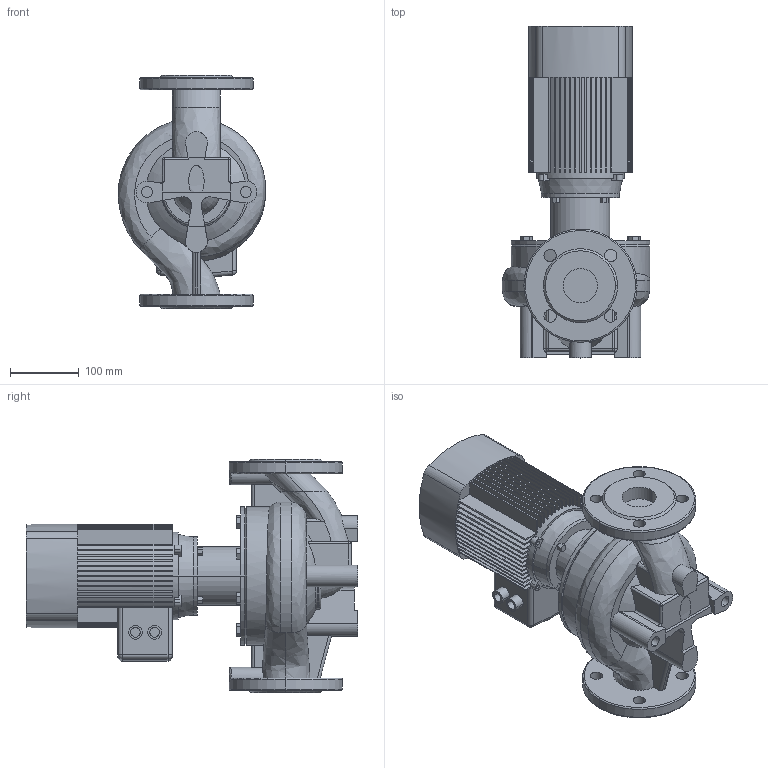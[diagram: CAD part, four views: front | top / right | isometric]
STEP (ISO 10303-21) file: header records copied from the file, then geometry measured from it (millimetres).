
FILE_DESCRIPTION (( 'STEP AP203' ), '1' );
FILE_NAME ('TD50-12G_2.STEP', '2022-05-02T14:54:40', ( '' ), ( '' ), 'SwSTEP 2.0', 'SolidWorks 2019', '' );
FILE_SCHEMA (( 'CONFIG_CONTROL_DESIGN' ));
Length unit declared in the file: millimetre
Products named in the file (4): ED_B14_YE2-80M2-2 (1.1); TD50-12G_2; Pr_ch 50_TD50-12G_2; Fon_50_TD50-12G_2
Assembly tree (3 placements, depth 2):
  TD50-12G_2
    Pr_ch 50_TD50-12G_2
    Fon_50_TD50-12G_2
    ED_B14_YE2-80M2-2 (1.1)
Bounding box: 215.07 x 484 x 340 mm (x, y, z)
Volume: 9811216.5 mm3; surface area: 787935.8 mm2
Topology: 3 solids, 3 shells, 643 faces, 1750 edges, 1148 vertices
Faces by surface type: plane 423, cylinder 155, bspline 25, torus 23, cone 11, sphere 6
Entity records: 26016 total; most frequent: CARTESIAN_POINT 9191, ORIENTED_EDGE 3496, DIRECTION 3402, EDGE_CURVE 1748, AXIS2_PLACEMENT_3D 1194, VERTEX_POINT 1148, VECTOR 1014, LINE 1014
